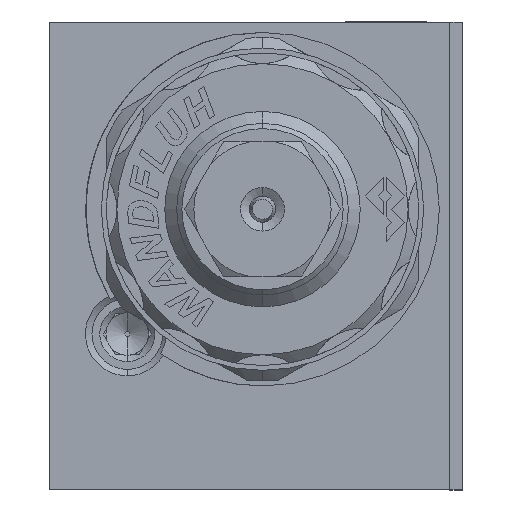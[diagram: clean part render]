
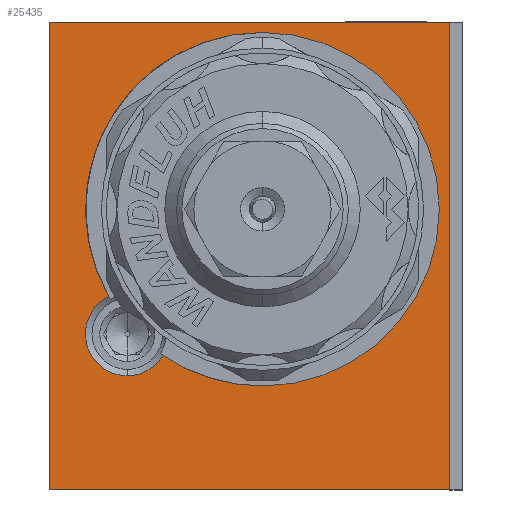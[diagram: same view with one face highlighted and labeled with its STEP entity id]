
A CAD part, left-side view. The second image highlights one B-rep face of the part: STEP entity #25435.
In plain terms, the highlighted planar face has unit normal (-1, 0, 0).
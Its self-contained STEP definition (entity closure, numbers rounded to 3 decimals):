
#224 = VERTEX_POINT ( 'NONE', #22772 ) ;
#290 = EDGE_CURVE ( 'NONE', #4690, #22696, #2261, .T. ) ;
#2261 = LINE ( 'NONE', #29009, #4036 ) ;
#3789 = EDGE_CURVE ( 'NONE', #224, #10552, #26700, .T. ) ;
#3869 = EDGE_CURVE ( 'NONE', #22696, #36522, #31805, .T. ) ;
#4036 = VECTOR ( 'NONE', #29525, 1000. ) ;
#4106 = VERTEX_POINT ( 'NONE', #7289 ) ;
#4216 = CARTESIAN_POINT ( 'NONE',  ( 0., -1.25, 4.5 ) ) ;
#4690 = VERTEX_POINT ( 'NONE', #24105 ) ;
#5058 = LINE ( 'NONE', #30803, #12956 ) ;
#5093 = CARTESIAN_POINT ( 'NONE',  ( 0., -19.25, 22.5 ) ) ;
#6226 = AXIS2_PLACEMENT_3D ( 'NONE', #4216, #25052, #7209 ) ;
#6765 = AXIS2_PLACEMENT_3D ( 'NONE', #15088, #14964, #14918 ) ;
#7013 = ORIENTED_EDGE ( 'NONE', *, *, #3789, .F. ) ;
#7167 = VERTEX_POINT ( 'NONE', #7310 ) ;
#7192 = VECTOR ( 'NONE', #16305, 1000. ) ;
#7209 = DIRECTION ( 'NONE',  ( 0., 0., 1. ) ) ;
#7289 = CARTESIAN_POINT ( 'NONE',  ( 0., 8.296, -9.567 ) ) ;
#7310 = CARTESIAN_POINT ( 'NONE',  ( 0., -1.25, -12.5 ) ) ;
#7791 = AXIS2_PLACEMENT_3D ( 'NONE', #8725, #8712, #8683 ) ;
#8179 = ORIENTED_EDGE ( 'NONE', *, *, #35737, .F. ) ;
#8209 = AXIS2_PLACEMENT_3D ( 'NONE', #10096, #30862, #13039 ) ;
#8683 = DIRECTION ( 'NONE',  ( 0., 0., 1. ) ) ;
#8712 = DIRECTION ( 'NONE',  ( -1., 0., 0. ) ) ;
#8725 = CARTESIAN_POINT ( 'NONE',  ( 0., 11.75, -7.5 ) ) ;
#9278 = ORIENTED_EDGE ( 'NONE', *, *, #30434, .F. ) ;
#10096 = CARTESIAN_POINT ( 'NONE',  ( 0., 11.75, -7.5 ) ) ;
#10184 = CIRCLE ( 'NONE', #7791, 4.025 ) ;
#10552 = VERTEX_POINT ( 'NONE', #27465 ) ;
#11541 = CIRCLE ( 'NONE', #8209, 4.025 ) ;
#11945 = PLANE ( 'NONE',  #27388 ) ;
#12071 = CARTESIAN_POINT ( 'NONE',  ( 0., 19.25, -22.5 ) ) ;
#12316 = ORIENTED_EDGE ( 'NONE', *, *, #3869, .F. ) ;
#12937 = EDGE_CURVE ( 'NONE', #10552, #34337, #10184, .T. ) ;
#12956 = VECTOR ( 'NONE', #32688, 1000. ) ;
#13039 = DIRECTION ( 'NONE',  ( 0., 0., 1. ) ) ;
#13577 = ORIENTED_EDGE ( 'NONE', *, *, #290, .F. ) ;
#13612 = CARTESIAN_POINT ( 'NONE',  ( 0., 19.25, 22.5 ) ) ;
#13654 = DIRECTION ( 'NONE',  ( 0., 0., 1. ) ) ;
#14918 = DIRECTION ( 'NONE',  ( 0., 0., 1. ) ) ;
#14964 = DIRECTION ( 'NONE',  ( -1., 0., 0. ) ) ;
#15081 = DIRECTION ( 'NONE',  ( 0., 0., 1. ) ) ;
#15088 = CARTESIAN_POINT ( 'NONE',  ( 0., -1.25, 4.5 ) ) ;
#15133 = LINE ( 'NONE', #34109, #7192 ) ;
#16305 = DIRECTION ( 'NONE',  ( 0., 0., -1. ) ) ;
#16658 = ORIENTED_EDGE ( 'NONE', *, *, #12937, .F. ) ;
#17753 = CARTESIAN_POINT ( 'NONE',  ( 0., 19.25, -22.5 ) ) ;
#17788 = CARTESIAN_POINT ( 'NONE',  ( 0., -1.25, 4.5 ) ) ;
#18005 = EDGE_CURVE ( 'NONE', #36522, #38361, #5058, .T. ) ;
#19213 = EDGE_CURVE ( 'NONE', #38361, #4690, #15133, .T. ) ;
#19415 = ORIENTED_EDGE ( 'NONE', *, *, #35779, .F. ) ;
#19490 = CIRCLE ( 'NONE', #6226, 17. ) ;
#19884 = FACE_BOUND ( 'NONE', #33831, .T. ) ;
#20740 = DIRECTION ( 'NONE',  ( 0., 0., 1. ) ) ;
#22696 = VERTEX_POINT ( 'NONE', #17753 ) ;
#22772 = CARTESIAN_POINT ( 'NONE',  ( 0., -1.25, 21.5 ) ) ;
#24105 = CARTESIAN_POINT ( 'NONE',  ( 0., -19.25, -22.5 ) ) ;
#25052 = DIRECTION ( 'NONE',  ( -1., 0., 0. ) ) ;
#25435 = ADVANCED_FACE ( 'NONE', ( #19884, #27743 ), #11945, .T. ) ;
#25716 = CARTESIAN_POINT ( 'NONE',  ( 0., 11.75, -11.525 ) ) ;
#26423 = CARTESIAN_POINT ( 'NONE',  ( 0., 19.25, 22.5 ) ) ;
#26700 = CIRCLE ( 'NONE', #6765, 17. ) ;
#27388 = AXIS2_PLACEMENT_3D ( 'NONE', #12071, #32907, #15081 ) ;
#27465 = CARTESIAN_POINT ( 'NONE',  ( 0., 13.534, -3.892 ) ) ;
#27734 = VECTOR ( 'NONE', #13654, 1000. ) ;
#27743 = FACE_OUTER_BOUND ( 'NONE', #37255, .T. ) ;
#29003 = ORIENTED_EDGE ( 'NONE', *, *, #18005, .F. ) ;
#29009 = CARTESIAN_POINT ( 'NONE',  ( 0., -19.25, -22.5 ) ) ;
#29525 = DIRECTION ( 'NONE',  ( 0., 1., 0. ) ) ;
#30434 = EDGE_CURVE ( 'NONE', #7167, #224, #37011, .T. ) ;
#30567 = AXIS2_PLACEMENT_3D ( 'NONE', #17788, #38530, #20740 ) ;
#30803 = CARTESIAN_POINT ( 'NONE',  ( 0., -19.25, 22.5 ) ) ;
#30862 = DIRECTION ( 'NONE',  ( -1., 0., 0. ) ) ;
#31805 = LINE ( 'NONE', #13612, #27734 ) ;
#32688 = DIRECTION ( 'NONE',  ( 0., -1., 0. ) ) ;
#32907 = DIRECTION ( 'NONE',  ( -1., 0., 0. ) ) ;
#33689 = ORIENTED_EDGE ( 'NONE', *, *, #19213, .F. ) ;
#33831 = EDGE_LOOP ( 'NONE', ( #16658, #7013, #9278, #19415, #8179 ) ) ;
#34109 = CARTESIAN_POINT ( 'NONE',  ( 0., -19.25, 22.5 ) ) ;
#34337 = VERTEX_POINT ( 'NONE', #25716 ) ;
#35737 = EDGE_CURVE ( 'NONE', #34337, #4106, #11541, .T. ) ;
#35779 = EDGE_CURVE ( 'NONE', #4106, #7167, #19490, .T. ) ;
#36522 = VERTEX_POINT ( 'NONE', #26423 ) ;
#37011 = CIRCLE ( 'NONE', #30567, 17. ) ;
#37255 = EDGE_LOOP ( 'NONE', ( #13577, #33689, #29003, #12316 ) ) ;
#38361 = VERTEX_POINT ( 'NONE', #5093 ) ;
#38530 = DIRECTION ( 'NONE',  ( -1., 0., 0. ) ) ;
